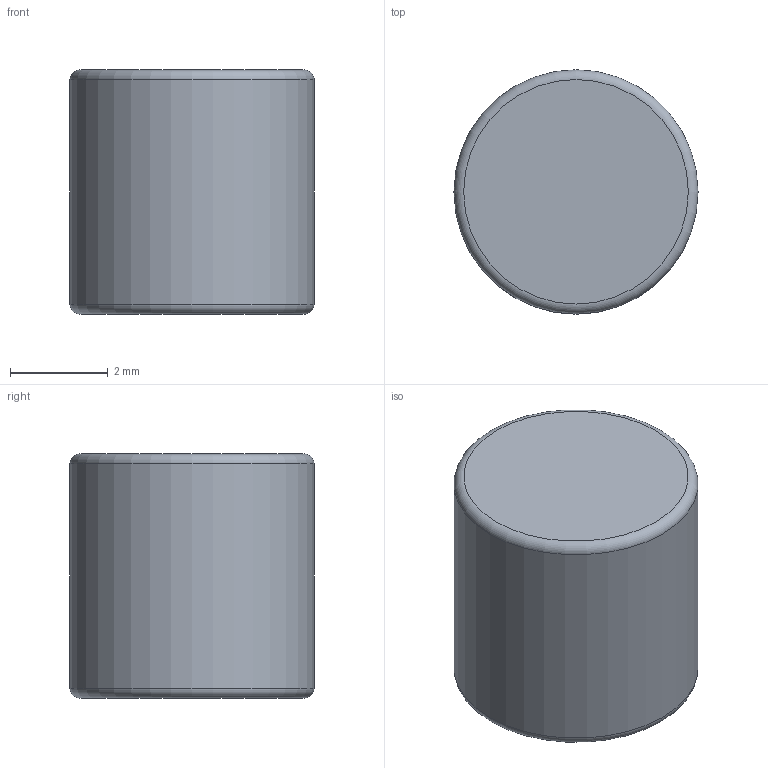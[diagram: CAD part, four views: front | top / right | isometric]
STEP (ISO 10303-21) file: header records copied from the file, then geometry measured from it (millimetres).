
FILE_DESCRIPTION(/* description */ (''),/* implementation_level */ '2;1');
FILE_NAME(/* name */ 'C:\Users\CAD2\Desktop\CALIBRI ZIP\18_05_05.stp',/* time_stamp */ '2015-05-19T08:52:40+02:00',/* author */ ('CAD2'),/* organization */ (''),/* preprocessor_version */ 'ST-DEVELOPER v15.2',/* originating_system */ 'Autodesk Inventor 2014',/* authorisation */ '0 mm^3');
FILE_SCHEMA (('CONFIG_CONTROL_DESIGN'));
Length unit declared in the file: millimetre
Products named in the file (1): Magnete Ø5x5
Bounding box: 5 x 5 x 5 mm (x, y, z)
Volume: 97.9 mm3; surface area: 115.1 mm2
Topology: 1 solids, 1 shells, 5 faces, 7 edges, 4 vertices
Faces by surface type: torus 2, plane 2, cylinder 1
Full cylindrical faces by diameter (mm): 5 x1
Entity records: 118 total; most frequent: DIRECTION 20, CARTESIAN_POINT 14, AXIS2_PLACEMENT_3D 10, EDGE_LOOP 8, ORIENTED_EDGE 8, FACE_OUTER_BOUND 5, ADVANCED_FACE 5, CIRCLE 4
